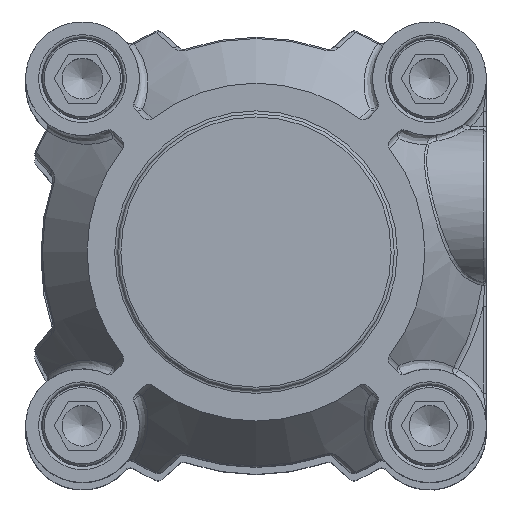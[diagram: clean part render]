
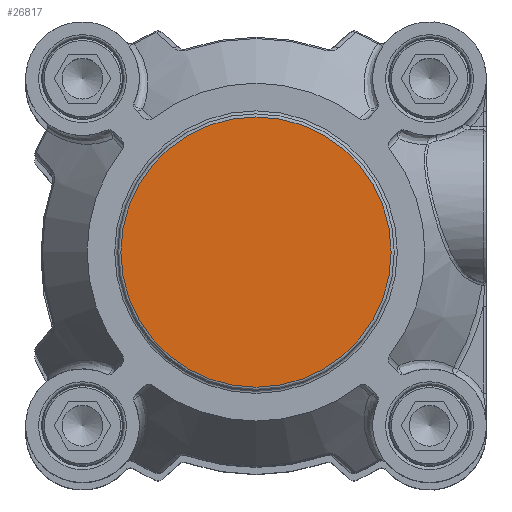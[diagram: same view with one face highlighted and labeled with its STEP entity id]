
A CAD part, top view. The second image highlights one B-rep face of the part: STEP entity #26817.
In plain terms, the highlighted planar face has unit normal (0, 0, 1).
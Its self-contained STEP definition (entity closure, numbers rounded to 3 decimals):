
#3593=PLANE('',#28647);
#7924=ORIENTED_EDGE('',*,*,#11660,.F.);
#7925=ORIENTED_EDGE('',*,*,#11661,.F.);
#11660=EDGE_CURVE('',#13820,#13821,#14976,.T.);
#11661=EDGE_CURVE('',#13821,#13820,#14977,.T.);
#13820=VERTEX_POINT('',#44787);
#13821=VERTEX_POINT('',#44788);
#14976=CIRCLE('',#28648,22.);
#14977=CIRCLE('',#28649,22.);
#16320=EDGE_LOOP('',(#7924,#7925));
#17698=FACE_BOUND('',#16320,.T.);
#26817=ADVANCED_FACE('',(#17698),#3593,.F.);
#28647=AXIS2_PLACEMENT_3D('',#44785,#32856,#32857);
#28648=AXIS2_PLACEMENT_3D('',#44786,#32858,#32859);
#28649=AXIS2_PLACEMENT_3D('',#44789,#32860,#32861);
#32856=DIRECTION('',(0.,0.,-1.));
#32857=DIRECTION('',(-1.,0.,0.));
#32858=DIRECTION('',(0.,0.,-1.));
#32859=DIRECTION('',(1.,0.,0.));
#32860=DIRECTION('',(0.,0.,-1.));
#32861=DIRECTION('',(1.,0.,0.));
#44785=CARTESIAN_POINT('',(84.561,0.,45.5));
#44786=CARTESIAN_POINT('',(0.,0.,45.5));
#44787=CARTESIAN_POINT('',(-22.,0.,45.5));
#44788=CARTESIAN_POINT('',(22.,0.,45.5));
#44789=CARTESIAN_POINT('',(0.,0.,45.5));
